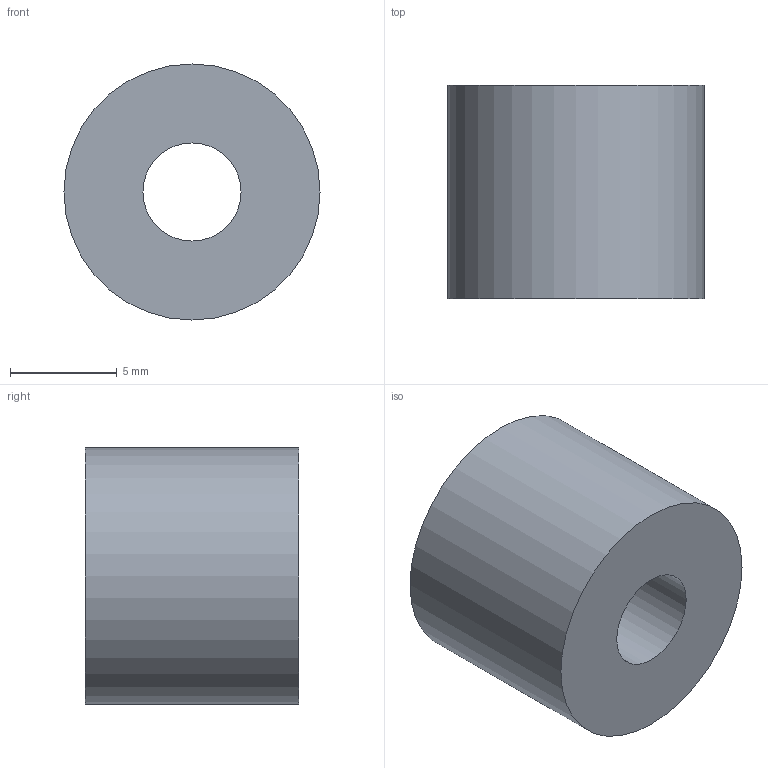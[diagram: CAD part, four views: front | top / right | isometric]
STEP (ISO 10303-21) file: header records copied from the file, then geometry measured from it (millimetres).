
FILE_DESCRIPTION(('Open CASCADE Model'),'2;1');
FILE_NAME('Open CASCADE Shape Model','2026-10-13T11:47:38',('Author'),( 'Open CASCADE'),'Open CASCADE STEP processor 7.8','Open CASCADE 7.8' ,'Unknown');
FILE_SCHEMA(('AUTOMOTIVE_DESIGN { 1 0 10303 214 1 1 1 1 }'));
Length unit declared in the file: millimetre
Products named in the file (1): Open CASCADE STEP translator 7.8 130
Bounding box: 12 x 10 x 12 mm (x, y, z)
Volume: 964.8 mm3; surface area: 714.5 mm2
Topology: 1 solids, 1 shells, 4 faces, 6 edges, 4 vertices
Faces by surface type: cylinder 2, plane 2
Full cylindrical faces by diameter (mm): 4.6 x1, 12 x1
Entity records: 186 total; most frequent: DIRECTION 32, CARTESIAN_POINT 27, ORIENTED_EDGE 12, PCURVE 12, DEFINITIONAL_REPRESENTATION 12, LINE 10, VECTOR 10, AXIS2_PLACEMENT_3D 9
